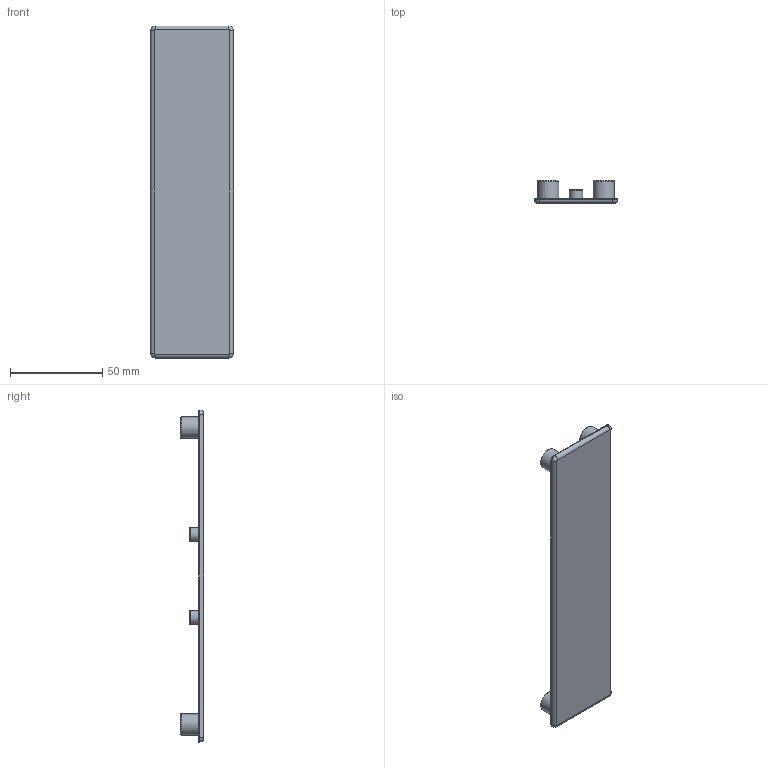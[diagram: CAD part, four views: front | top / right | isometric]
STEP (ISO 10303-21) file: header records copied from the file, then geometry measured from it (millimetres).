
FILE_DESCRIPTION(/* description */ ('STEP AP203'),/* implementation_level */ '2;1');
FILE_NAME(/* name */ 'C:\Users\Stefan.Nesic\Desktop\01010STEP\000Verifica\CORRETTI\CC45-180B.stp',/* time_stamp */ '2022-07-11T10:45:43+02:00',/* author */ ('Alusic'),/* organization */ ('Alusic'),/* preprocessor_version */ 'ST-DEVELOPER v18.1',/* originating_system */ 'Autodesk Inventor 2021',/* authorisation */ '');
FILE_SCHEMA (('AUTOMOTIVE_DESIGN { 1 0 10303 214 3 1 1 }'));
Length unit declared in the file: millimetre
Products named in the file (1): CC45-180B
Bounding box: 45 x 12.5 x 180 mm (x, y, z)
Volume: 21426.6 mm3; surface area: 19902.7 mm2
Topology: 1 solids, 1 shells, 48 faces, 93 edges, 59 vertices
Faces by surface type: cylinder 20, plane 18, torus 6, bspline 4
Full cylindrical faces by diameter (mm): 4.8 x2, 7.5 x2, 9.5 x4, 11.5 x4
Entity records: 1303 total; most frequent: DIRECTION 244, CARTESIAN_POINT 233, ORIENTED_EDGE 186, AXIS2_PLACEMENT_3D 106, EDGE_CURVE 93, CIRCLE 61, EDGE_LOOP 60, VERTEX_POINT 59
